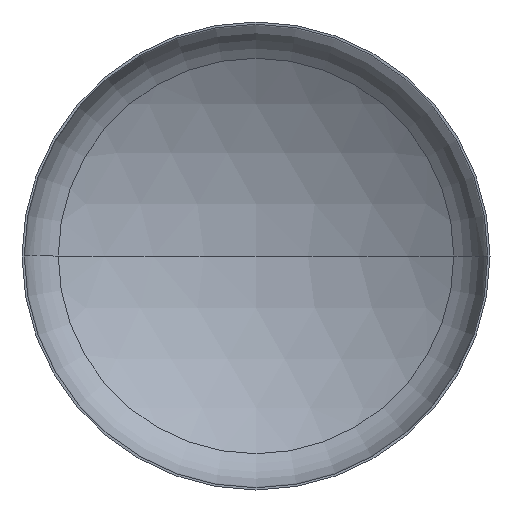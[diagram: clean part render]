
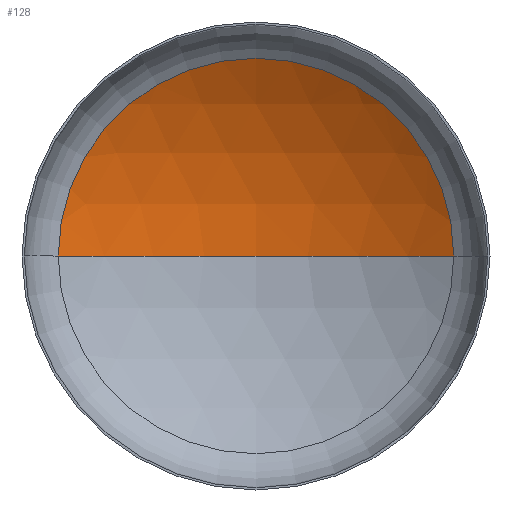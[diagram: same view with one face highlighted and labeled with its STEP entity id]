
A CAD part, front view. The second image highlights one B-rep face of the part: STEP entity #128.
In plain terms, the highlighted spherical face has radius 6000 mm.
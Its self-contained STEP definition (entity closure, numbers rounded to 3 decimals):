
#16 = VERTEX_POINT ( 'NONE', #296 ) ;
#19 = ORIENTED_EDGE ( 'NONE', *, *, #183, .T. ) ;
#23 = VERTEX_POINT ( 'NONE', #348 ) ;
#24 = DIRECTION ( 'NONE',  ( -1., 0., 0. ) ) ;
#27 = VERTEX_POINT ( 'NONE', #286 ) ;
#47 = ORIENTED_EDGE ( 'NONE', *, *, #189, .T. ) ;
#73 = ORIENTED_EDGE ( 'NONE', *, *, #192, .F. ) ;
#77 = EDGE_LOOP ( 'NONE', ( #73, #47, #19 ) ) ;
#110 = CIRCLE ( 'NONE', #119, 6000. ) ;
#119 = AXIS2_PLACEMENT_3D ( 'NONE', #396, #246, #371 ) ;
#122 = AXIS2_PLACEMENT_3D ( 'NONE', #395, #268, #24 ) ;
#128 = ADVANCED_FACE ( 'NONE', ( #345 ), #283, .F. ) ;
#129 = AXIS2_PLACEMENT_3D ( 'NONE', #182, #186, #187 ) ;
#159 = AXIS2_PLACEMENT_3D ( 'NONE', #239, #236, #342 ) ;
#182 = CARTESIAN_POINT ( 'NONE',  ( 0., 1090.753, 0. ) ) ;
#183 = EDGE_CURVE ( 'NONE', #16, #27, #331, .T. ) ;
#186 = DIRECTION ( 'NONE',  ( 0., -1., 0. ) ) ;
#187 = DIRECTION ( 'NONE',  ( 1., 0., 0. ) ) ;
#189 = EDGE_CURVE ( 'NONE', #23, #16, #273, .T. ) ;
#192 = EDGE_CURVE ( 'NONE', #23, #27, #110, .T. ) ;
#236 = DIRECTION ( 'NONE',  ( 0., 0., -1. ) ) ;
#239 = CARTESIAN_POINT ( 'NONE',  ( 0., -4004.067, 0. ) ) ;
#246 = DIRECTION ( 'NONE',  ( 0., 0., 1. ) ) ;
#268 = DIRECTION ( 'NONE',  ( 0., 0., -1. ) ) ;
#273 = CIRCLE ( 'NONE', #122, 6000. ) ;
#283 = SPHERICAL_SURFACE ( 'NONE', #159, 6000. ) ;
#286 = CARTESIAN_POINT ( 'NONE',  ( -3169.04, 1090.753, 0. ) ) ;
#296 = CARTESIAN_POINT ( 'NONE',  ( 3169.04, 1090.753, 0. ) ) ;
#331 = CIRCLE ( 'NONE', #129, 3169.04 ) ;
#342 = DIRECTION ( 'NONE',  ( -1., 0., 0. ) ) ;
#345 = FACE_OUTER_BOUND ( 'NONE', #77, .T. ) ;
#348 = CARTESIAN_POINT ( 'NONE',  ( 0., 1995.933, 0. ) ) ;
#371 = DIRECTION ( 'NONE',  ( 1., 0., 0. ) ) ;
#395 = CARTESIAN_POINT ( 'NONE',  ( 0., -4004.067, 0. ) ) ;
#396 = CARTESIAN_POINT ( 'NONE',  ( 0., -4004.067, 0. ) ) ;
